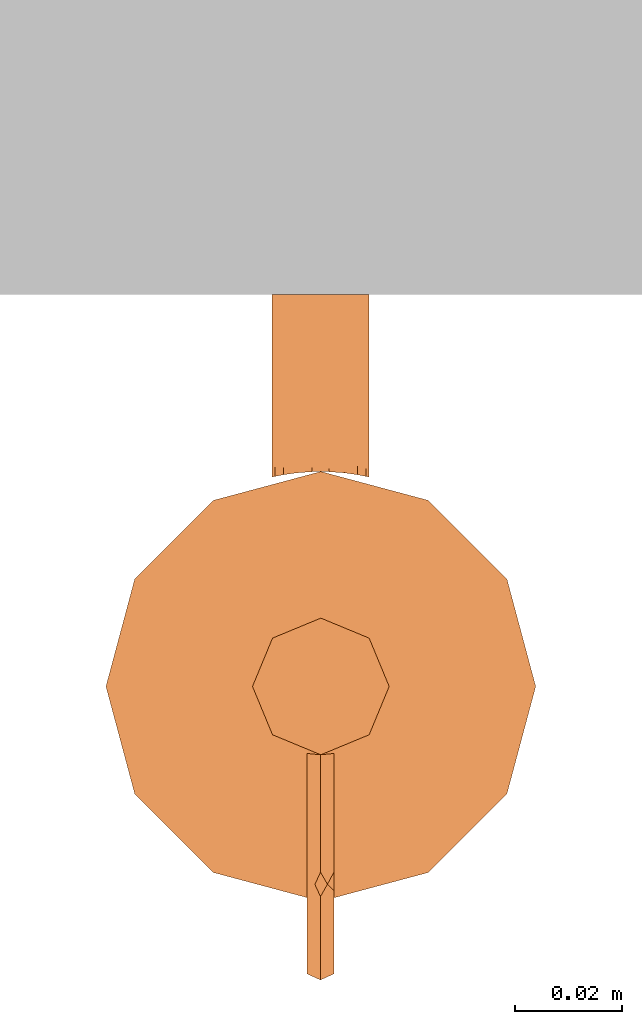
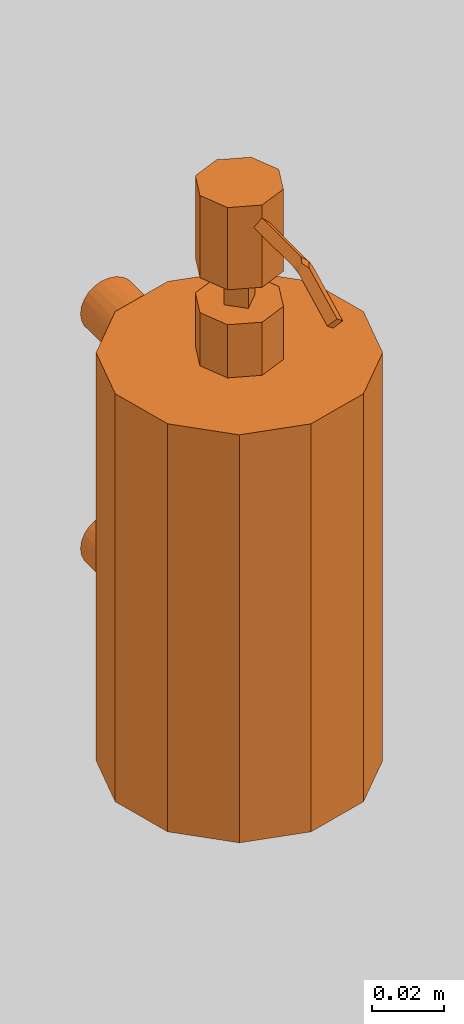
# One storey, part 2 of 4: 1 proxy.
"""IFC2X3 building model written with IfcOpenShell, lengths in millimetres."""

from ifc_helpers import new_model, entity, si_unit, converted_unit, derived_unit, direction, frame, origin, place, context, subcontext, project, spatial, faceted_brep, source, transform, mapped, material, type_object, type_shapes, element, save


model = new_model("IFC2X3")

# Units and contexts
model_context = context("Model", 3, precision=0.01, world=origin(), true_north=direction((6.12303176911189e-17, 1.0)))
body_context = subcontext(model_context, "Body", "Model", "MODEL_VIEW")
ifc_project = project(units=[si_unit("LENGTHUNIT", "METRE", prefix="MILLI"), si_unit("AREAUNIT", "SQUARE_METRE"), si_unit("VOLUMEUNIT", "CUBIC_METRE"), converted_unit("PLANEANGLEUNIT", "DEGREE", entity("IfcRatioMeasure", 0.0174532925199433), si_unit("PLANEANGLEUNIT", "RADIAN"), dimensions=[0, 0, 0, 0, 0, 0, 0]), si_unit("MASSUNIT", "GRAM", prefix="KILO"), derived_unit("MASSDENSITYUNIT", [(si_unit("MASSUNIT", "GRAM", prefix="KILO"), 1), (si_unit("LENGTHUNIT", "METRE"), -3)]), si_unit("TIMEUNIT", "SECOND"), si_unit("FREQUENCYUNIT", "HERTZ"), si_unit("THERMODYNAMICTEMPERATUREUNIT", "DEGREE_CELSIUS"), derived_unit("THERMALTRANSMITTANCEUNIT", [(si_unit("MASSUNIT", "GRAM", prefix="KILO"), 1), (si_unit("THERMODYNAMICTEMPERATUREUNIT", "KELVIN"), -1), (si_unit("TIMEUNIT", "SECOND"), -3)]), derived_unit("VOLUMETRICFLOWRATEUNIT", [(si_unit("LENGTHUNIT", "METRE"), 3), (si_unit("TIMEUNIT", "SECOND"), -1)]), si_unit("ELECTRICCURRENTUNIT", "AMPERE"), si_unit("ELECTRICVOLTAGEUNIT", "VOLT"), si_unit("POWERUNIT", "WATT"), si_unit("FORCEUNIT", "NEWTON", prefix="KILO"), si_unit("ILLUMINANCEUNIT", "LUX"), si_unit("LUMINOUSFLUXUNIT", "LUMEN"), si_unit("LUMINOUSINTENSITYUNIT", "CANDELA"), derived_unit("USERDEFINED", [(si_unit("MASSUNIT", "GRAM", prefix="KILO"), -1), (si_unit("LENGTHUNIT", "METRE"), -2), (si_unit("TIMEUNIT", "SECOND"), 3), (si_unit("LUMINOUSFLUXUNIT", "LUMEN"), 1)]), derived_unit("LINEARVELOCITYUNIT", [(si_unit("LENGTHUNIT", "METRE"), 1), (si_unit("TIMEUNIT", "SECOND"), -1)]), si_unit("PRESSUREUNIT", "PASCAL"), derived_unit("USERDEFINED", [(si_unit("LENGTHUNIT", "METRE"), -2), (si_unit("MASSUNIT", "GRAM", prefix="KILO"), 1), (si_unit("TIMEUNIT", "SECOND"), -2)])], contexts=[model_context])

# Site, building, storey
site_placement = place(None, origin())
site = spatial("IfcSite", under=ifc_project, at=site_placement, Name="Default", CompositionType="ELEMENT")
building_placement = place(site_placement, origin())
building = spatial("IfcBuilding", under=site, at=building_placement, CompositionType="ELEMENT")
storey_placement = place(building_placement, origin())
storey = spatial("IfcBuildingStorey", under=building, at=storey_placement, Name="Level 0", CompositionType="ELEMENT", Elevation=0.0)

# Proxy
ifc_material = material(Name="Duten_Metal_BrushedStainlessSteel")
building_element_proxy_type = type_object("IfcBuildingElementProxyType", Name="Brushed Stainless Steel", PredefinedType="USERDEFINED", material=ifc_material)
shared_shape = source(origin(), body_context, "Body", "Brep", [
    faceted_brep([(44.1603954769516, 85.4722594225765, 190.124999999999), (44.1603954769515, 107.572992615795, 190.124999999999), (41.6600499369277, 85.7203480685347, 192.624999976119), (41.6603954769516, 107.572992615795, 192.624999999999), (39.1603954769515, 107.572992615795, 190.124999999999), (39.1603954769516, 85.4722594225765, 190.124999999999), (41.6600499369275, 85.7203480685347, 187.625000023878), (41.6603954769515, 107.572992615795, 187.624999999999), (42.7020102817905, 109.854377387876, 192.127652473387), (40.3686469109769, 109.823503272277, 191.99905168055), (39.1603954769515, 110.977921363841, 189.307548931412), (41.6603954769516, 112.11289761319, 191.535065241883), (44.1603954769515, 109.323832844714, 189.917774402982), (44.1603954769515, 110.977921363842, 189.307548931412), (39.1603954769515, 109.323832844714, 189.917774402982), (40.6187806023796, 108.793288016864, 187.707896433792), (42.952144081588, 108.824162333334, 187.836497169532), (41.6603954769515, 109.842945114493, 187.080032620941), (41.6603954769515, 127.644896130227, 183.621116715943), (44.1603954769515, 126.509919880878, 181.393600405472), (41.6603954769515, 125.37494363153, 179.166084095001), (39.1603954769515, 126.509919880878, 181.393600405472)], [[[0, 1, 2]], [[2, 1, 3]], [[2, 4, 5]], [[4, 2, 3]], [[4, 6, 5]], [[6, 4, 7]], [[1, 0, 6]], [[1, 6, 7]], [[3, 8, 9]], [[10, 9, 11]], [[4, 3, 9]], [[1, 12, 8]], [[1, 8, 3]], [[13, 11, 8]], [[4, 9, 14]], [[14, 9, 10]], [[9, 8, 11]], [[13, 8, 12]], [[10, 15, 14]], [[7, 15, 16]], [[13, 16, 17]], [[1, 7, 16]], [[4, 14, 15]], [[10, 17, 15]], [[4, 15, 7]], [[12, 16, 13]], [[1, 16, 12]], [[16, 15, 17]], [[18, 19, 20, 21]], [[19, 18, 11, 13]], [[11, 18, 21, 10]], [[21, 20, 17, 10]], [[17, 20, 19, 13]], [[6, 0, 2]], [[2, 5, 6]]]),
    faceted_brep([(43.9897668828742, 0.0, 22.4682102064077), (46.1603954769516, 0.0, 23.3673140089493), (48.0243565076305, 0.0, 24.7975816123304), (49.4546241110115, 0.0, 26.6615426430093), (50.3537279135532, 0.0, 28.8321712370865), (50.6603954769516, 0.0, 31.1615426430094), (50.3537279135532, 0.0, 33.490914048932), (49.4546241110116, 0.0, 35.6615426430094), (48.0243565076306, 0.0, 37.5255036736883), (46.1603954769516, 0.0, 38.9557712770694), (43.9897668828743, 0.0, 39.854875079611), (41.6603954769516, 0.0, 40.1615426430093), (39.3310240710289, 0.0, 39.854875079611), (37.1603954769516, 0.0, 38.9557712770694), (35.2964344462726, 0.0, 37.5255036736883), (33.8661668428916, 0.0, 35.6615426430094), (32.9670630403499, 0.0, 33.490914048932), (32.6603954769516, 0.0, 31.1615426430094), (32.9670630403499, 0.0, 28.8321712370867), (33.8661668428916, 0.0, 26.6615426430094), (35.2964344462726, 0.0, 24.7975816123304), (37.1603954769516, 0.0, 23.3673140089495), (39.3310240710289, 0.0, 22.4682102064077), (41.6603954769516, 0.0, 22.1615426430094), (32.6603954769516, 34.0257038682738, 31.1615426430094), (33.2055562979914, 33.9038179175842, 28.0767907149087), (37.1543463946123, 33.2546697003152, 23.3708095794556), (40.0945288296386, 33.0307140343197, 22.2988082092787), (34.7684166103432, 33.5982692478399, 25.3735700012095), (43.2285553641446, 33.0308039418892, 22.2992136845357), (46.1671635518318, 33.254751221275, 23.3712254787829), (48.554923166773, 33.5987151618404, 25.3766063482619), (50.1154262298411, 33.9038593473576, 28.0773158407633), (50.6603954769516, 34.0257038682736, 31.1615426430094), (50.1154262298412, 33.9038593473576, 34.2457694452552), (46.1671635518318, 33.254751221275, 38.9518598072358), (43.2285553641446, 33.0308039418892, 40.023871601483), (48.554923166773, 33.5987151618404, 36.9464789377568), (40.0945288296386, 33.0307140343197, 40.02427707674), (37.1543463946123, 33.2546697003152, 38.9522757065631), (34.7684166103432, 33.5982692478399, 36.9495152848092), (33.2055562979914, 33.9038179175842, 34.24629457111)], [[[0, 1, 2, 3, 4, 5, 6, 7, 8, 9, 10, 11, 12, 13, 14, 15, 16, 17, 18, 19, 20, 21, 22, 23]], [[18, 24, 25]], [[26, 27, 21]], [[19, 25, 28]], [[20, 28, 26]], [[18, 17, 24]], [[19, 18, 25]], [[21, 20, 26]], [[22, 21, 27]], [[19, 28, 20]], [[27, 23, 22]], [[0, 23, 29]], [[29, 23, 27]], [[30, 1, 29]], [[3, 31, 32]], [[30, 31, 2]], [[4, 32, 33]], [[1, 0, 29]], [[2, 1, 30]], [[4, 3, 32]], [[5, 4, 33]], [[2, 31, 3]], [[6, 33, 34]], [[35, 36, 9]], [[7, 34, 37]], [[8, 37, 35]], [[34, 7, 6]], [[6, 5, 33]], [[35, 9, 8]], [[8, 7, 37]], [[36, 10, 9]], [[36, 11, 10]], [[12, 11, 38]], [[38, 11, 36]], [[39, 13, 38]], [[15, 40, 41]], [[39, 40, 14]], [[16, 41, 24]], [[39, 14, 13]], [[13, 12, 38]], [[41, 16, 15]], [[15, 14, 40]], [[24, 17, 16]], [[28, 25, 41, 40]], [[26, 28, 40, 39]], [[27, 26, 39, 38]], [[41, 25, 24]], [[38, 36, 29, 27]], [[30, 29, 36, 35]], [[37, 31, 30, 35]], [[31, 37, 34, 32]], [[33, 32, 34]]]),
    faceted_brep([(43.9897668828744, 0.0, 102.468210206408), (46.1603954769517, 0.0, 103.367314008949), (48.0243565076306, 0.0, 104.79758161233), (49.4546241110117, 0.0, 106.661542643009), (50.3537279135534, 0.0, 108.832171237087), (50.6603954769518, 0.0, 111.161542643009), (50.3537279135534, 0.0, 113.490914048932), (49.4546241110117, 0.0, 115.661542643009), (48.0243565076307, 0.0, 117.525503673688), (46.1603954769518, 0.0, 118.955771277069), (43.9897668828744, 0.0, 119.854875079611), (41.6603954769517, 0.0, 120.161542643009), (39.331024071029, 0.0, 119.854875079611), (37.1603954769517, 0.0, 118.955771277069), (35.2964344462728, 0.0, 117.525503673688), (33.8661668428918, 0.0, 115.661542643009), (32.9670630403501, 0.0, 113.490914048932), (32.6603954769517, 0.0, 111.161542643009), (32.9670630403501, 0.0, 108.832171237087), (33.8661668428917, 0.0, 106.661542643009), (35.2964344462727, 0.0, 104.79758161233), (37.1603954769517, 0.0, 103.367314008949), (39.331024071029, 0.0, 102.468210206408), (41.6603954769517, 0.0, 102.161542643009), (34.7684166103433, 33.5982692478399, 105.373570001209), (33.2055562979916, 33.9038179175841, 108.076790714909), (33.2055562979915, 33.9038179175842, 114.24629457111), (34.7684166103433, 33.5982692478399, 116.949515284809), (37.1543463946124, 33.2546697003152, 103.370809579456), (37.1543463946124, 33.2546697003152, 118.952275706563), (40.0945288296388, 33.0307140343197, 102.298808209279), (40.0945288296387, 33.0307140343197, 120.02427707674), (32.6603954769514, 34.0257038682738, 111.161542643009), (43.2285553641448, 33.0308039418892, 120.023871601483), (43.2285553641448, 33.0308039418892, 102.299213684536), (46.167163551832, 33.254751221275, 103.371225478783), (46.167163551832, 33.254751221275, 118.951859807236), (48.5549231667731, 33.5987151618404, 116.946478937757), (48.5549231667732, 33.5987151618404, 105.376606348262), (50.1154262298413, 33.9038593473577, 114.245769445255), (50.1154262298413, 33.9038593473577, 108.077315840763), (50.6603954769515, 34.0257038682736, 111.161542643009)], [[[0, 1, 2, 3, 4, 5, 6, 7, 8, 9, 10, 11, 12, 13, 14, 15, 16, 17, 18, 19, 20, 21, 22, 23]], [[24, 25, 26, 27]], [[28, 24, 27, 29]], [[30, 28, 29, 31]], [[26, 25, 32]], [[31, 33, 34, 30]], [[35, 34, 33, 36]], [[37, 38, 35, 36]], [[38, 37, 39, 40]], [[41, 40, 39]], [[18, 32, 25]], [[28, 30, 21]], [[19, 25, 24]], [[20, 24, 28]], [[25, 19, 18]], [[18, 17, 32]], [[28, 21, 20]], [[20, 19, 24]], [[30, 22, 21]], [[30, 23, 22]], [[2, 35, 38]], [[1, 34, 35]], [[4, 40, 41]], [[38, 40, 3]], [[4, 41, 5]], [[34, 1, 0]], [[0, 23, 34]], [[38, 3, 2]], [[2, 1, 35]], [[40, 4, 3]], [[34, 23, 30]], [[6, 41, 39]], [[36, 33, 9]], [[7, 39, 37]], [[8, 37, 36]], [[41, 6, 5]], [[39, 7, 6]], [[8, 7, 37]], [[36, 9, 8]], [[33, 10, 9]], [[33, 11, 10]], [[14, 29, 27]], [[13, 31, 29]], [[16, 26, 32]], [[27, 26, 15]], [[16, 32, 17]], [[31, 12, 11]], [[31, 13, 12]], [[14, 13, 29]], [[27, 15, 14]], [[26, 16, 15]], [[31, 11, 33]]]),
    faceted_brep([(41.5952722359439, 73.0, 0.0), (41.5952722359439, 113.0, 0.0), (52.1868683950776, 110.161990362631, 0.0), (61.5952722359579, 107.641016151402, 0.0), (68.9157803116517, 100.320508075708, 0.0), (76.2362883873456, 93.0, 0.0), (78.9157803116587, 83.0, 0.0), (81.5952722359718, 73.0, 0.0), (78.9157803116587, 63.0, 0.0), (76.2362883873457, 53.0, 0.0), (68.9157803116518, 45.679491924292, 0.0), (61.5952722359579, 38.3589838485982, 0.0), (51.595272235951, 35.679491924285, 0.0), (41.595272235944, 33.0, 0.0), (31.0036760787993, 35.8380096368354, 0.0), (31.595272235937, 110.320508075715, 0.0), (21.59527223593, 107.641016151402, 0.0), (14.2747641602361, 100.320508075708, 0.0), (6.95425608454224, 93.0, 0.0), (4.27476416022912, 83.0, 0.0), (1.59527223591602, 73.0, 0.0), (21.5952722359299, 38.3589838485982, 0.0), (14.274764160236, 45.6794919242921, 0.0), (6.95425608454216, 53.0, 0.0), (4.27476416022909, 63.0, 0.0), (76.2362883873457, 53.0, 139.0), (68.9157803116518, 45.679491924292, 139.0), (61.5952722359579, 38.3589838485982, 139.0), (51.595272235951, 35.679491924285, 139.0), (41.595272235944, 33.0, 139.0), (81.5952722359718, 73.0, 139.0), (78.9157803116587, 63.0, 139.0), (61.5952722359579, 107.641016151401, 139.0), (68.9157803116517, 100.320508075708, 139.0), (76.2362883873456, 93.0, 139.0), (78.9157803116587, 83.0, 139.0), (41.5952722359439, 113.0, 139.0), (51.5952722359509, 110.320508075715, 139.0), (21.59527223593, 107.641016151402, 139.0), (31.0036760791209, 110.16199036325, 139.0), (4.27476416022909, 63.0, 139.0), (1.59527223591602, 73.0, 139.0), (6.95425608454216, 53.0, 139.0), (6.95425608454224, 93.0, 139.0), (14.2747641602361, 100.320508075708, 139.0), (4.27476416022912, 83.0, 139.0), (21.5952722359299, 38.3589838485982, 139.0), (14.274764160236, 45.6794919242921, 139.0), (31.5952722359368, 35.679491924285, 139.0), (41.5952722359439, 85.7203480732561, 139.0), (43.315364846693, 85.0078623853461, 139.0), (38.1550871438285, 84.2953767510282, 139.0), (46.0925944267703, 83.8574962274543, 139.0), (48.3412555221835, 82.9260703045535, 139.0), (50.5899166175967, 81.9946443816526, 139.0), (51.5213425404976, 79.7459832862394, 139.0), (52.4527684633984, 77.4973221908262, 139.0), (53.3841943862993, 75.248661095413, 139.0), (54.3156203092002, 73.0, 139.0), (53.3841943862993, 70.7513389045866, 139.0), (52.4527684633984, 68.5026778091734, 139.0), (51.5213425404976, 66.2540167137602, 139.0), (50.5899166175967, 64.005355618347, 139.0), (47.8126869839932, 62.854989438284, 139.0), (45.0354573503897, 61.7046232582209, 139.0), (41.5952722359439, 60.2796519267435, 139.0), (39.8751794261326, 60.9921376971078, 139.0), (37.0979500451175, 62.1425037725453, 139.0), (34.8492889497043, 63.0739296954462, 139.0), (32.6006278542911, 64.0053556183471, 139.0), (31.6692019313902, 66.2540167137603, 139.0), (30.7377760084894, 68.5026778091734, 139.0), (29.8063500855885, 70.7513389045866, 139.0), (28.8749241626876, 73.0, 139.0), (29.8063500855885, 75.248661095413, 139.0), (30.7377760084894, 77.4973221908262, 139.0), (31.6692019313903, 79.7459832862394, 139.0), (32.6006278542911, 81.9946443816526, 139.0), (35.3778574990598, 83.1450105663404, 139.0), (50.5899166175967, 64.005355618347, 157.089087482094), (48.3412555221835, 63.0739296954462, 157.089087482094), (46.0925944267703, 62.1425037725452, 157.089087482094), (43.8439333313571, 61.2110778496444, 157.089087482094), (41.5952722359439, 60.2796519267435, 157.089087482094), (48.3412555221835, 63.0739296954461, 169.0), (50.5899166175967, 64.005355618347, 169.0), (50.5899166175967, 64.005355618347, 197.0), (48.3150876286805, 63.0630905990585, 197.0), (46.0402586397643, 62.1208255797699, 197.0), (43.8177654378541, 61.2002387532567, 197.0), (41.5952722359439, 60.2796519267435, 197.0), (41.5952722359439, 60.2796519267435, 169.0), (43.8439333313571, 61.2110778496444, 169.0), (46.0925944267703, 62.1425037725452, 169.0), (52.4527684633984, 68.5026778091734, 157.089087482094), (51.5213425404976, 66.2540167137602, 157.089087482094), (54.3156203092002, 73.0, 157.089087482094), (53.3841943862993, 70.7513389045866, 157.089087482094), (52.4527684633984, 68.5026778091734, 197.0), (51.5213425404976, 66.2540167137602, 197.0), (51.5213425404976, 66.2540167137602, 169.0), (52.4527684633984, 68.5026778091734, 169.0), (53.3841943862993, 70.7513389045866, 169.0), (54.3156203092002, 73.0, 169.0), (54.3156203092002, 73.0, 197.0), (53.3841943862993, 70.7513389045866, 197.0), (46.0925944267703, 83.8574962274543, 157.089087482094), (48.3412555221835, 82.9260703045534, 157.089087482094), (50.5899166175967, 81.9946443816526, 157.089087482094), (41.5952722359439, 85.7203480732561, 157.089087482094), (43.8439333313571, 84.7889221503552, 157.089087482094), (46.0925944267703, 83.8574962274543, 197.0), (48.3412555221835, 82.9260703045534, 197.0), (50.5899166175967, 81.9946443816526, 197.0), (50.5899166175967, 81.9946443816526, 169.0), (48.3412555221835, 82.9260703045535, 169.0), (46.0925944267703, 83.8574962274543, 169.0), (43.8439333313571, 84.7889221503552, 169.0), (41.5952722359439, 85.7203480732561, 169.0), (41.5952722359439, 85.7203480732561, 197.0), (43.8177654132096, 84.799761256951, 197.0), (51.5213425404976, 79.7459832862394, 157.089087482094), (52.4527684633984, 77.4973221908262, 157.089087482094), (53.3841943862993, 75.248661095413, 157.089087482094), (52.4527684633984, 77.4973221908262, 169.0), (51.5213425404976, 79.7459832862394, 169.0), (51.5213425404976, 79.7459832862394, 197.0), (52.4527684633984, 77.4973221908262, 197.0), (53.3841943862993, 75.248661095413, 197.0), (53.3841943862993, 75.248661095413, 169.0), (32.6006278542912, 81.9946443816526, 157.089087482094), (34.8492889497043, 82.9260703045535, 157.089087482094), (37.0979500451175, 83.8574962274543, 157.089087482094), (39.3466111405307, 84.7889221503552, 157.089087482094), (37.0979500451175, 83.8574962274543, 169.0), (34.8492889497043, 82.9260703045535, 169.0), (32.6006278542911, 81.9946443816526, 169.0), (32.6006278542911, 81.9946443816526, 197.0), (34.8492889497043, 82.9260703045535, 197.0), (37.0979500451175, 83.8574962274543, 197.0), (39.3466111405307, 84.7889221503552, 197.0), (39.3466111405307, 84.7889221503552, 169.0), (32.6006278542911, 64.0053556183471, 157.089087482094), (31.6692019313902, 66.2540167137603, 157.089087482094), (30.7377760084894, 68.5026778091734, 157.089087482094), (29.8063500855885, 70.7513389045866, 157.089087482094), (28.8749241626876, 73.0, 157.089087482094), (30.7377760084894, 68.5026778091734, 169.0), (31.6692019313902, 66.2540167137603, 169.0), (32.6006278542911, 64.0053556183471, 169.0), (32.6006278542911, 64.0053556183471, 197.0), (31.6692019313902, 66.2540167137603, 197.0), (30.7377760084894, 68.5026778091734, 197.0), (29.8063500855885, 70.7513389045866, 197.0), (28.8749241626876, 73.0, 197.0), (28.8749241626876, 73.0, 169.0), (29.8063500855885, 70.7513389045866, 169.0), (29.8063500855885, 75.248661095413, 157.089087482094), (30.7377760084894, 77.4973221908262, 157.089087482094), (31.6692019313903, 79.7459832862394, 157.089087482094), (29.8063500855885, 75.248661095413, 197.0), (30.7377760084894, 77.4973221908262, 197.0), (31.6692019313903, 79.7459832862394, 197.0), (31.6692019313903, 79.7459832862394, 169.0), (30.7377760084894, 77.4973221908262, 169.0), (29.8063500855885, 75.248661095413, 169.0), (37.0979500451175, 62.1425037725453, 157.089087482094), (34.8492889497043, 63.0739296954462, 157.089087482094), (39.3466111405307, 61.2110778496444, 157.089087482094), (34.8492889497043, 63.0739296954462, 169.0), (37.0979500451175, 62.1425037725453, 169.0), (39.3466111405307, 61.2110778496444, 169.0), (39.3727790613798, 61.2002387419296, 197.0), (37.0979500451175, 62.1425037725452, 197.0), (34.8492889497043, 63.0739296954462, 197.0), (41.5952722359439, 78.0, 157.089087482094), (46.595272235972, 73.0, 157.089087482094), (36.5952722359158, 73.0, 157.089087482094), (41.5952722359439, 68.0, 157.089087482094), (46.595272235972, 73.0, 169.0), (41.5952722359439, 68.0, 169.0), (41.5952722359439, 78.0, 169.0), (36.5952722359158, 73.0, 169.0), (41.5952722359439, 73.0, 197.0)], [[[0, 1, 2]], [[0, 2, 3]], [[0, 3, 4]], [[0, 4, 5]], [[0, 5, 6]], [[0, 6, 7]], [[0, 7, 8]], [[0, 8, 9]], [[0, 9, 10]], [[0, 10, 11]], [[0, 11, 12]], [[0, 12, 13]], [[0, 13, 14]], [[0, 15, 1]], [[0, 16, 15]], [[0, 17, 16]], [[0, 18, 17]], [[0, 19, 18]], [[0, 20, 19]], [[0, 14, 21]], [[0, 21, 22]], [[0, 22, 23]], [[0, 23, 24]], [[0, 24, 20]], [[25, 26, 27, 11, 10, 9]], [[12, 11, 27, 28, 29, 13]], [[30, 31, 25, 9, 8, 7]], [[5, 4, 3, 32, 33, 34]], [[35, 30, 7, 6, 5, 34]], [[32, 3, 2, 1, 36, 37]], [[16, 38, 39, 36, 1, 15]], [[40, 41, 20, 24, 23, 42]], [[16, 17, 18, 43, 44, 38]], [[41, 45, 43, 18, 19, 20]], [[23, 22, 21, 46, 47, 42]], [[14, 13, 29, 48, 46, 21]], [[49, 32, 37]], [[32, 49, 50]], [[49, 37, 36]], [[49, 36, 39]], [[49, 39, 38]], [[38, 51, 49]], [[32, 50, 52]], [[32, 52, 53]], [[32, 53, 54]], [[54, 33, 32]], [[54, 34, 33]], [[34, 54, 55]], [[34, 55, 56]], [[34, 56, 57]], [[34, 57, 58]], [[58, 35, 34]], [[58, 30, 35]], [[58, 31, 30]], [[58, 25, 31]], [[25, 58, 59]], [[25, 59, 60]], [[25, 60, 61]], [[25, 61, 62]], [[62, 26, 25]], [[62, 27, 26]], [[27, 62, 63]], [[27, 63, 64]], [[27, 64, 65]], [[65, 28, 27]], [[65, 29, 28]], [[65, 48, 29]], [[65, 46, 48]], [[46, 65, 66]], [[46, 66, 67]], [[46, 67, 68]], [[46, 68, 69]], [[69, 47, 46]], [[69, 42, 47]], [[42, 69, 70]], [[42, 70, 71]], [[42, 71, 72]], [[42, 72, 73]], [[73, 40, 42]], [[73, 41, 40]], [[73, 45, 41]], [[73, 43, 45]], [[43, 73, 74]], [[43, 74, 75]], [[43, 75, 76]], [[43, 76, 77]], [[77, 38, 44]], [[38, 77, 78]], [[77, 44, 43]], [[38, 78, 51]], [[64, 63, 62, 79, 80, 81, 82, 83, 65]], [[84, 85, 86, 87, 88, 89, 90, 91, 92, 93]], [[94, 95, 79, 62, 61, 60, 59, 58, 96, 97]], [[98, 99, 86, 85, 100, 101, 102, 103, 104, 105]], [[106, 107, 108, 54, 53, 52, 50, 49, 109, 110]], [[111, 112, 113, 114, 115, 116, 117, 118, 119, 120]], [[96, 58, 57, 56, 55, 54, 108, 121, 122, 123]], [[124, 125, 114, 113, 126, 127, 128, 104, 103, 129]], [[51, 78, 77, 130, 131, 132, 133, 109, 49]], [[134, 135, 136, 137, 138, 139, 140, 119, 118, 141]], [[71, 70, 69, 142, 143, 144, 145, 146, 73, 72]], [[147, 148, 149, 150, 151, 152, 153, 154, 155, 156]], [[73, 146, 157, 158, 159, 130, 77, 76, 75, 74]], [[155, 154, 160, 161, 162, 137, 136, 163, 164, 165]], [[166, 167, 142, 69, 68, 67, 66, 65, 83, 168]], [[150, 149, 169, 170, 171, 91, 90, 172, 173, 174]], [[175, 108, 107]], [[176, 108, 175]], [[175, 107, 106]], [[175, 106, 110]], [[175, 110, 109]], [[175, 109, 133]], [[175, 133, 132]], [[175, 132, 131]], [[175, 131, 130]], [[130, 177, 175]], [[176, 121, 108]], [[176, 122, 121]], [[176, 123, 122]], [[176, 96, 123]], [[176, 97, 96]], [[176, 94, 97]], [[176, 95, 94]], [[176, 79, 95]], [[79, 176, 178]], [[142, 178, 177]], [[178, 142, 167]], [[178, 80, 79]], [[178, 81, 80]], [[178, 82, 81]], [[178, 83, 82]], [[178, 167, 166]], [[178, 166, 168]], [[178, 168, 83]], [[177, 130, 159]], [[177, 159, 158]], [[177, 158, 157]], [[177, 157, 146]], [[177, 146, 145]], [[177, 145, 144]], [[177, 144, 143]], [[177, 143, 142]], [[178, 176, 179, 180]], [[179, 176, 175, 181]], [[175, 177, 182, 181]], [[182, 177, 178, 180]], [[181, 118, 117]], [[181, 117, 116]], [[181, 116, 115]], [[181, 115, 114]], [[181, 114, 179]], [[181, 141, 118]], [[181, 134, 141]], [[181, 135, 134]], [[181, 136, 135]], [[181, 182, 136]], [[182, 163, 136]], [[182, 164, 163]], [[182, 165, 164]], [[182, 155, 165]], [[182, 156, 155]], [[182, 147, 156]], [[182, 148, 147]], [[182, 149, 148]], [[182, 180, 149]], [[180, 179, 85]], [[180, 85, 84]], [[180, 84, 93]], [[180, 93, 92]], [[180, 92, 91]], [[180, 91, 171]], [[180, 171, 170]], [[180, 170, 169]], [[180, 169, 149]], [[179, 114, 125]], [[179, 125, 124]], [[179, 124, 129]], [[179, 129, 103]], [[179, 103, 102]], [[179, 102, 101]], [[179, 101, 100]], [[179, 100, 85]], [[183, 113, 112]], [[183, 112, 111]], [[183, 111, 120]], [[183, 120, 119]], [[183, 119, 140]], [[183, 126, 113]], [[183, 127, 126]], [[183, 128, 127]], [[183, 104, 128]], [[183, 105, 104]], [[183, 98, 105]], [[183, 99, 98]], [[183, 86, 99]], [[183, 87, 86]], [[183, 88, 87]], [[183, 89, 88]], [[183, 90, 89]], [[183, 140, 139]], [[183, 139, 138]], [[183, 138, 137]], [[183, 137, 162]], [[183, 162, 161]], [[183, 161, 160]], [[183, 160, 154]], [[183, 154, 153]], [[183, 172, 90]], [[183, 173, 172]], [[183, 174, 173]], [[183, 150, 174]], [[183, 153, 152]], [[183, 152, 151]], [[183, 151, 150]]]),
])
type_shapes(building_element_proxy_type, [shared_shape])
proxy_placement = place(storey_placement, frame((-6733.47484916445, 273.18631944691, 652.155391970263), z_axis=(0.0, 0.0, 1.0), x_axis=(-1.0, 0.0, 0.0)))
element("IfcBuildingElementProxy", 1, at=proxy_placement, inside=storey, type_object=building_element_proxy_type, material=ifc_material, Name="Duten_SoapDpnsrs_S210:Brushed Stainless Steel", ObjectType="Brushed Stainless Steel", context=body_context, shape_type="MappedRepresentation", body=[
    mapped(shared_shape, transform((0.0, 0.0, 0.0), scale=1.0)),
])

save(model, "model.ifc")
